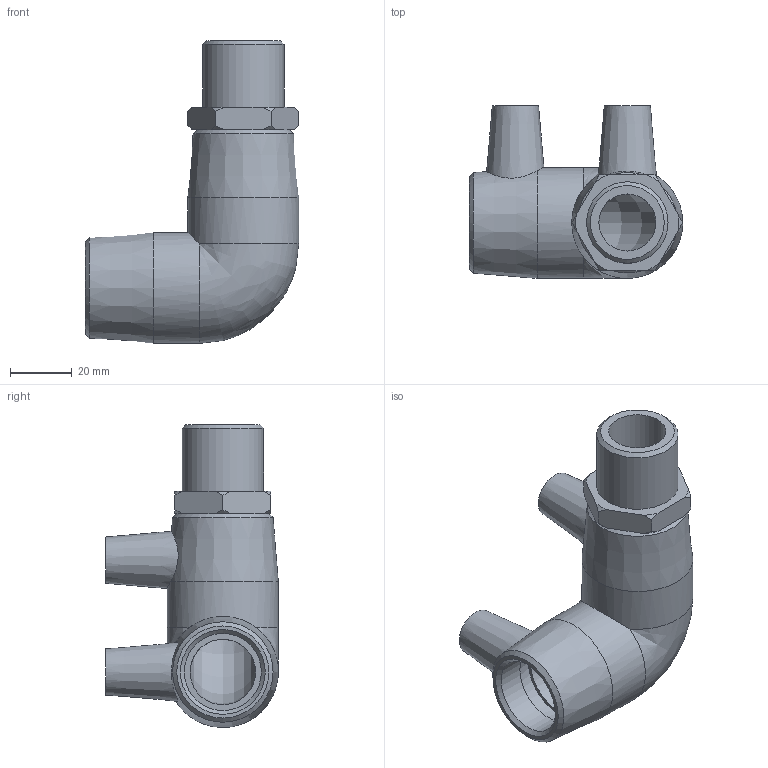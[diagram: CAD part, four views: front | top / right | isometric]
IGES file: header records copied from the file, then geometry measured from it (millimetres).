
Global section: file name: 492504025007.ipt; native system: Autodesk Inventor 2015; preprocessor: unknown; author: KIM; date: 20200202.122329; units: millimetre
Bounding box: 69.3 x 56 x 98.3 mm (x, y, z)
Volume: 74629.1 mm3; surface area: 27422.9 mm2
Topology: 1 solids, 2 shells, 61 faces, 145 edges, 96 vertices
Faces by surface type: plane 22, cone 19, revolution 12, cylinder 7, bspline 1
Full cylindrical faces by diameter (mm): 4 x2, 25 x2, 26.441 x1, 36 x2
